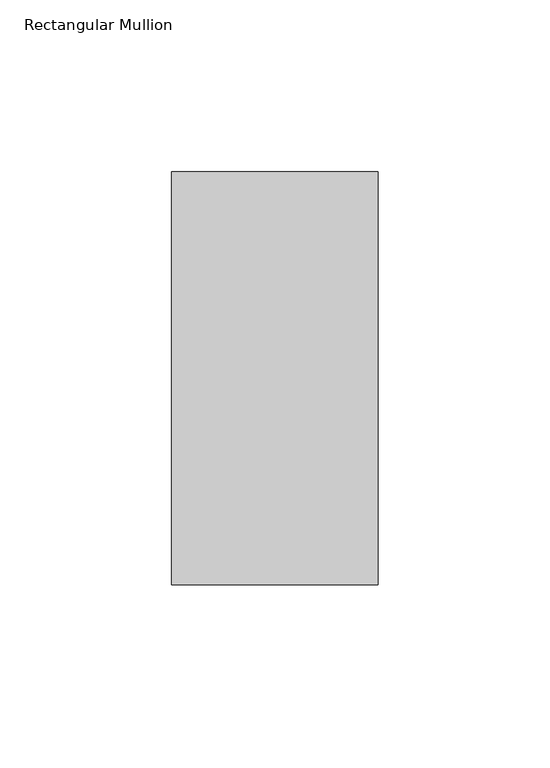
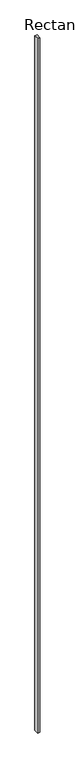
"""IFC4 building model written with IfcOpenShell, lengths in millimetres: member geometry, Rectangular Mullion : Terça."""

from ifc_helpers import new_model, si_unit, frame, origin, place, context, project, spatial, polyline, outline, extrude, source, transform, mapped, element, save


def rectangular_mullion_b07fcf9a(model_context):
    return source(origin(), model_context, "Body", "SweptSolid", [
        extrude(outline(polyline([(30.0, -120.0), (-30.0, -120.0), (-30.0, 0.0), (30.0, 0.0), (30.0, -120.0)])), frame((0.0, 0.0, -19150.0), z_axis=(0.0, 0.0, 1.0), x_axis=(1.0, 0.0, 0.0)), (0.0, 0.0, 1.0), 19150.0),
    ])


if __name__ == "__main__":
    model = new_model("IFC4")
    model_context = context("Model", 3, world=origin())
    ifc_project = project(units=[si_unit("LENGTHUNIT", "METRE", prefix="MILLI")], contexts=[model_context])
    site = spatial("IfcSite", under=ifc_project)
    building = spatial("IfcBuilding", under=site)
    placement = place(None, origin())
    rectangular_mullion_shape = rectangular_mullion_b07fcf9a(model_context)
    element("IfcMember", 1, ObjectType="Rectangular Mullion : Terça", at=placement, inside=building, context=model_context, shape_type="MappedRepresentation", body=[
        mapped(rectangular_mullion_shape, transform((0.0, 0.0, 0.0), x_axis=(1.0, 0.0, 0.0), y_axis=(0.0, 1.0, 0.0), z_axis=(0.0, 0.0, 1.0))),
    ])
    save(model, "model.ifc")
